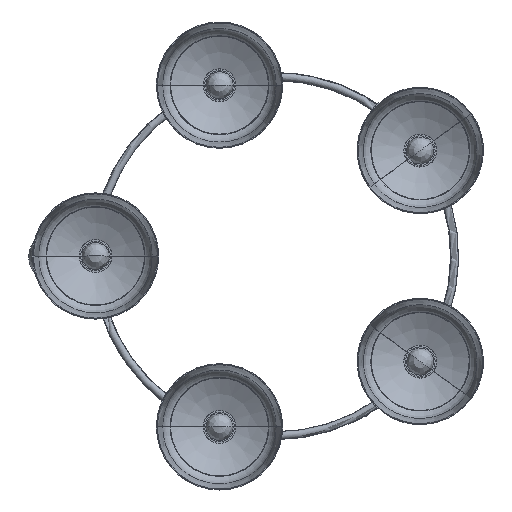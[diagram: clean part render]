
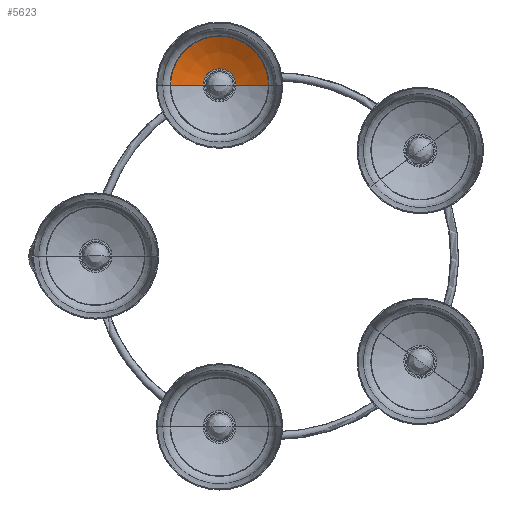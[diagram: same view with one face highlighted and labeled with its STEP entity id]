
A CAD part, top view. The second image highlights one B-rep face of the part: STEP entity #5623.
In plain terms, the highlighted free-form (B-spline) face has degree [2, 2] with [3, 5] control points.
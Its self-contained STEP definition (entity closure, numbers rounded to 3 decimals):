
#604=FACE_OUTER_BOUND('',#1141,.T.);
#1141=EDGE_LOOP('',(#3721,#3722,#3723,#3724));
#1825=VERTEX_POINT('',#13583);
#1826=VERTEX_POINT('',#13585);
#1827=VERTEX_POINT('',#13605);
#1828=VERTEX_POINT('',#13607);
#2480=EDGE_CURVE('',#1826,#1825,#6200,.T.);
#2483=EDGE_CURVE('',#1827,#1825,#6203,.T.);
#2484=EDGE_CURVE('',#1828,#1827,#6204,.T.);
#2485=EDGE_CURVE('',#1826,#1828,#6205,.T.);
#3721=ORIENTED_EDGE('',*,*,#2483,.F.);
#3722=ORIENTED_EDGE('',*,*,#2484,.F.);
#3723=ORIENTED_EDGE('',*,*,#2485,.F.);
#3724=ORIENTED_EDGE('',*,*,#2480,.T.);
#5447=(
BOUNDED_SURFACE()
B_SPLINE_SURFACE(2,2,((#13590,#13591,#13592,#13593,#13594),(#13595,#13596,
#13597,#13598,#13599),(#13600,#13601,#13602,#13603,#13604)),
 .UNSPECIFIED.,.F.,.F.,.F.)
B_SPLINE_SURFACE_WITH_KNOTS((3,3),(3,2,3),(-1.299,-1.006),
(-1.571,0.,1.571),.UNSPECIFIED.)
GEOMETRIC_REPRESENTATION_ITEM()
RATIONAL_B_SPLINE_SURFACE(((1.,0.707,1.,0.707,1.),
(0.989,0.7,0.989,0.7,0.989),
(1.,0.707,1.,0.707,1.)))
REPRESENTATION_ITEM('')
SURFACE()
);
#5623=ADVANCED_FACE('',(#604),#5447,.T.);
#6200=CIRCLE('',#7604,97.541);
#6203=CIRCLE('',#7608,244.13);
#6204=CIRCLE('',#7609,32.566);
#6205=CIRCLE('',#7610,244.13);
#7604=AXIS2_PLACEMENT_3D('',#13586,#8843,#8844);
#7608=AXIS2_PLACEMENT_3D('',#13606,#8851,#8852);
#7609=AXIS2_PLACEMENT_3D('',#13608,#8853,#8854);
#7610=AXIS2_PLACEMENT_3D('',#13609,#8855,#8856);
#8843=DIRECTION('center_axis',(0.,0.,
1.));
#8844=DIRECTION('ref_axis',(1.,0.,0.));
#8851=DIRECTION('center_axis',(0.,1.,0.));
#8852=DIRECTION('ref_axis',(-1.,0.,0.));
#8853=DIRECTION('center_axis',(0.,0.,
1.));
#8854=DIRECTION('ref_axis',(1.,0.,0.));
#8855=DIRECTION('center_axis',(0.,1.,0.));
#8856=DIRECTION('ref_axis',(1.,0.,0.));
#13583=CARTESIAN_POINT('',(232.788,340.482,961.169));
#13585=CARTESIAN_POINT('',(427.871,340.482,961.169));
#13586=CARTESIAN_POINT('Origin',(330.329,340.482,961.169));
#13590=CARTESIAN_POINT('Ctrl Pts',(362.895,340.482,932.296));
#13591=CARTESIAN_POINT('Ctrl Pts',(362.895,373.048,932.296));
#13592=CARTESIAN_POINT('Ctrl Pts',(330.329,373.048,932.296));
#13593=CARTESIAN_POINT('Ctrl Pts',(297.764,373.048,932.296));
#13594=CARTESIAN_POINT('Ctrl Pts',(297.764,340.482,932.296));
#13595=CARTESIAN_POINT('Ctrl Pts',(397.508,340.482,941.951));
#13596=CARTESIAN_POINT('Ctrl Pts',(397.508,407.661,941.951));
#13597=CARTESIAN_POINT('Ctrl Pts',(330.329,407.661,941.951));
#13598=CARTESIAN_POINT('Ctrl Pts',(263.151,407.661,941.951));
#13599=CARTESIAN_POINT('Ctrl Pts',(263.151,340.482,941.951));
#13600=CARTESIAN_POINT('Ctrl Pts',(427.871,340.482,961.169));
#13601=CARTESIAN_POINT('Ctrl Pts',(427.871,438.023,961.169));
#13602=CARTESIAN_POINT('Ctrl Pts',(330.329,438.023,961.169));
#13603=CARTESIAN_POINT('Ctrl Pts',(232.788,438.023,961.169));
#13604=CARTESIAN_POINT('Ctrl Pts',(232.788,340.482,961.169));
#13605=CARTESIAN_POINT('',(297.764,340.482,932.296));
#13606=CARTESIAN_POINT('Origin',(363.354,340.482,1167.45));
#13607=CARTESIAN_POINT('',(362.895,340.482,932.296));
#13608=CARTESIAN_POINT('Origin',(330.329,340.482,932.296));
#13609=CARTESIAN_POINT('Origin',(297.305,340.482,1167.45));
